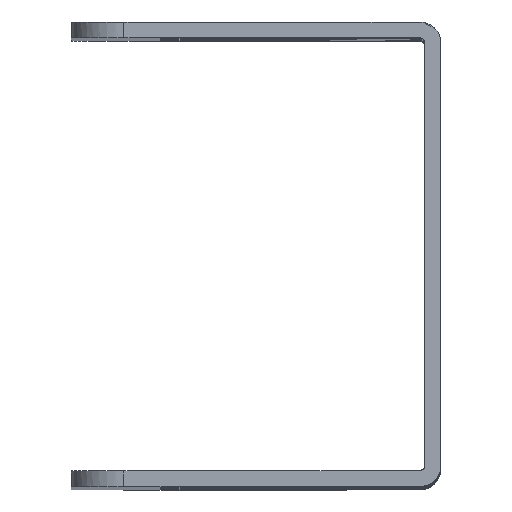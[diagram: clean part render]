
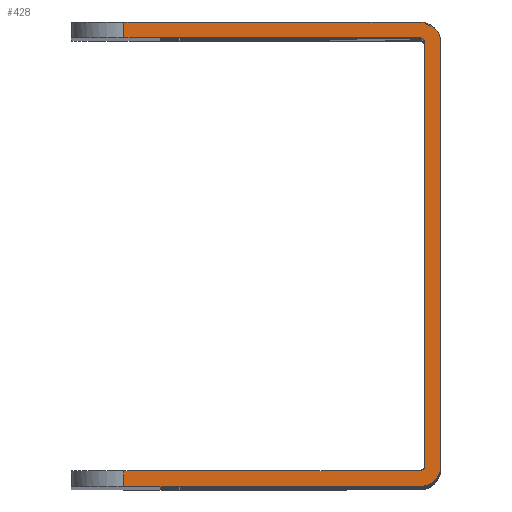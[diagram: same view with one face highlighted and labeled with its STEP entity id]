
A CAD part, top view. The second image highlights one B-rep face of the part: STEP entity #428.
In plain terms, the highlighted planar face has unit normal (0, 0, 1).
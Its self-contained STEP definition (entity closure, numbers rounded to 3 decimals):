
#55=PLANE($,#1540);
#428=ADVANCED_FACE($,(#481),#55,.T.);
#481=FACE_OUTER_BOUND($,#534,.T.);
#534=EDGE_LOOP($,(#773,#774,#775,#776,#777));
#773=ORIENTED_EDGE($,*,*,#996,.T.);
#774=ORIENTED_EDGE($,*,*,#995,.T.);
#775=ORIENTED_EDGE($,*,*,#999,.F.);
#776=ORIENTED_EDGE($,*,*,#997,.T.);
#777=ORIENTED_EDGE($,*,*,#998,.F.);
#995=EDGE_CURVE($,#1175,#1176,#1452,.T.);
#996=EDGE_CURVE($,#1177,#1175,#1453,.T.);
#997=EDGE_CURVE($,#1179,#1178,#1454,.T.);
#998=EDGE_CURVE($,#1177,#1178,#1455,.T.);
#999=EDGE_CURVE($,#1179,#1176,#1456,.T.);
#1175=VERTEX_POINT($,#3334);
#1176=VERTEX_POINT($,#3335);
#1177=VERTEX_POINT($,#3336);
#1178=VERTEX_POINT($,#3337);
#1179=VERTEX_POINT($,#3338);
#1452=(
BOUNDED_CURVE()
B_SPLINE_CURVE(2,(#3302,#3303,#3304,#3305,#3306,#3307,#3308),.UNSPECIFIED.,
.F.,.F.)
B_SPLINE_CURVE_WITH_KNOTS((3,2,2,3),(-336.421,-296.421,
-293.279,-259.728),.UNSPECIFIED.)
CURVE()
GEOMETRIC_REPRESENTATION_ITEM()
RATIONAL_B_SPLINE_CURVE((1.,1.,1.,0.707,1.,1.,1.))
REPRESENTATION_ITEM($)
);
#1453=(
BOUNDED_CURVE()
B_SPLINE_CURVE(2,(#3309,#3310,#3311,#3312,#3313),.UNSPECIFIED.,.F.,.F.)
B_SPLINE_CURVE_WITH_KNOTS((3,2,3),(-119.377,-85.826,-82.684),
.UNSPECIFIED.)
CURVE()
GEOMETRIC_REPRESENTATION_ITEM()
RATIONAL_B_SPLINE_CURVE((1.,1.,1.,0.707,1.))
REPRESENTATION_ITEM($)
);
#1454=(
BOUNDED_CURVE()
B_SPLINE_CURVE(2,(#3314,#3315,#3316,#3317,#3318,#3319,#3320,#3321,#3322,
#3323,#3324),.UNSPECIFIED.,.F.,.F.)
B_SPLINE_CURVE_WITH_KNOTS((3,2,2,2,2,3),(-246.245,-212.694,
-209.552,-169.552,-166.411,-132.86),.UNSPECIFIED.)
CURVE()
GEOMETRIC_REPRESENTATION_ITEM()
RATIONAL_B_SPLINE_CURVE((1.,1.,1.,0.707,1.,1.,1.,0.707,
1.,1.,1.))
REPRESENTATION_ITEM($)
);
#1455=(
BOUNDED_CURVE()
B_SPLINE_CURVE(3,(#3325,#3326,#3327,#3328),.UNSPECIFIED.,.F.,.F.)
B_SPLINE_CURVE_WITH_KNOTS((4,4),(0.,1.5),.UNSPECIFIED.)
CURVE()
GEOMETRIC_REPRESENTATION_ITEM()
RATIONAL_B_SPLINE_CURVE((1.,1.,1.,1.))
REPRESENTATION_ITEM($)
);
#1456=(
BOUNDED_CURVE()
B_SPLINE_CURVE(3,(#3329,#3330,#3331,#3332),.UNSPECIFIED.,.F.,.F.)
B_SPLINE_CURVE_WITH_KNOTS((4,4),(0.,1.5),
.UNSPECIFIED.)
CURVE()
GEOMETRIC_REPRESENTATION_ITEM()
RATIONAL_B_SPLINE_CURVE((1.,1.,1.,1.))
REPRESENTATION_ITEM($)
);
#1540=AXIS2_PLACEMENT_3D($,#3333,#1547,$);
#1547=DIRECTION($,(0.,0.,1.));
#3302=CARTESIAN_POINT($,(15.89,20.096,180.));
#3303=CARTESIAN_POINT($,(15.89,0.096,180.));
#3304=CARTESIAN_POINT($,(15.89,-19.904,180.));
#3305=CARTESIAN_POINT($,(15.89,-20.404,180.));
#3306=CARTESIAN_POINT($,(15.39,-20.404,180.));
#3307=CARTESIAN_POINT($,(1.39,-20.404,180.));
#3308=CARTESIAN_POINT($,(-12.61,-20.404,180.));
#3309=CARTESIAN_POINT($,(-12.61,20.596,180.));
#3310=CARTESIAN_POINT($,(1.39,20.596,180.));
#3311=CARTESIAN_POINT($,(15.39,20.596,180.));
#3312=CARTESIAN_POINT($,(15.89,20.596,180.));
#3313=CARTESIAN_POINT($,(15.89,20.096,180.));
#3314=CARTESIAN_POINT($,(-12.61,-21.904,180.));
#3315=CARTESIAN_POINT($,(1.39,-21.904,180.));
#3316=CARTESIAN_POINT($,(15.39,-21.904,180.));
#3317=CARTESIAN_POINT($,(17.39,-21.904,180.));
#3318=CARTESIAN_POINT($,(17.39,-19.904,180.));
#3319=CARTESIAN_POINT($,(17.39,0.096,180.));
#3320=CARTESIAN_POINT($,(17.39,20.096,180.));
#3321=CARTESIAN_POINT($,(17.39,22.096,180.));
#3322=CARTESIAN_POINT($,(15.39,22.096,180.));
#3323=CARTESIAN_POINT($,(1.39,22.096,180.));
#3324=CARTESIAN_POINT($,(-12.61,22.096,180.));
#3325=CARTESIAN_POINT($,(-12.61,20.596,180.));
#3326=CARTESIAN_POINT($,(-12.61,21.096,180.));
#3327=CARTESIAN_POINT($,(-12.61,21.596,180.));
#3328=CARTESIAN_POINT($,(-12.61,22.096,180.));
#3329=CARTESIAN_POINT($,(-12.61,-21.904,180.));
#3330=CARTESIAN_POINT($,(-12.61,-21.404,180.));
#3331=CARTESIAN_POINT($,(-12.61,-20.904,180.));
#3332=CARTESIAN_POINT($,(-12.61,-20.404,180.));
#3333=CARTESIAN_POINT($,(-12.61,-21.904,180.));
#3334=CARTESIAN_POINT($,(15.89,20.096,180.));
#3335=CARTESIAN_POINT($,(-12.61,-20.404,180.));
#3336=CARTESIAN_POINT($,(-12.61,20.596,180.));
#3337=CARTESIAN_POINT($,(-12.61,22.096,180.));
#3338=CARTESIAN_POINT($,(-12.61,-21.904,180.));
